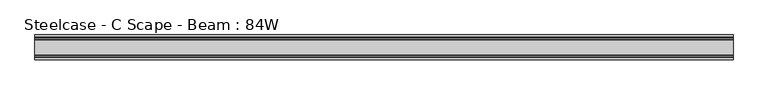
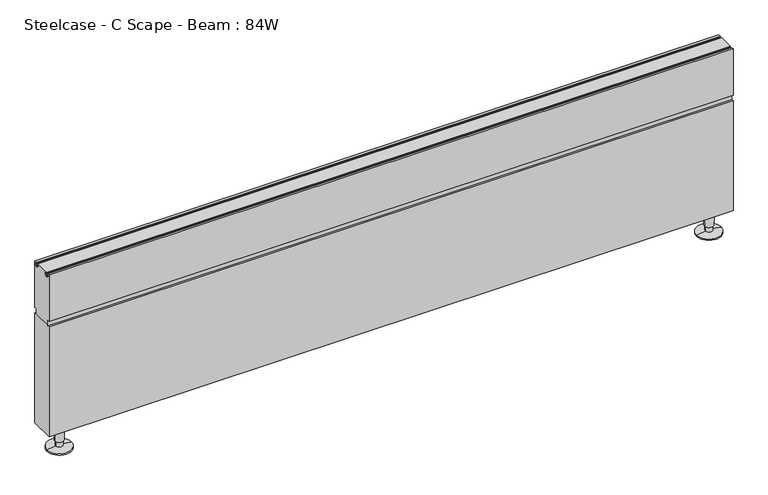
"""IFC4 building model written with IfcOpenShell, lengths in millimetres: furniture geometry, Steelcase - C Scape - Beam : 84W."""

import ifcopenshell
import ifcopenshell.guid

model = None  # the IFC model being written
_history = None  # IfcOwnerHistory: only IFC2X3 demands one
_inside = {}  # id of a spatial element -> (the spatial element, [elements in it])
_under = {}  # id of a project, library or spatial element -> (it, [spatial elements below it])
_declared = {}  # id of a project -> (the project, [libraries it declares])
_typed = {}  # id of a type object -> (the type object, [elements of that type])
_made_of = {}  # id of a material, layer set ... -> (it, [elements and type objects made of it])


def new_model(schema):
    """Start an empty IFC model of exactly this schema.

    Asked for "IFC4X3", IfcOpenShell would pick the latest addendum, in which some entities
    have other attributes; the version numbers below select the first issue.
    IFC2X3 requires an IfcOwnerHistory on every rooted entity: one is made here for all.
    """
    global model, _history
    if schema == "IFC4X3":
        model = ifcopenshell.file(schema_version=(4, 3, 0, 0))
    else:
        model = ifcopenshell.file(schema=schema)
    _inside.clear()
    _under.clear()
    _declared.clear()
    _typed.clear()
    _made_of.clear()
    _history = None
    if model.schema == "IFC2X3":
        org = make("IfcOrganization", Name="unknown")
        user = make(
            "IfcPersonAndOrganization",
            ThePerson=make("IfcPerson", FamilyName="unknown"),
            TheOrganization=org,
        )
        app = make(
            "IfcApplication",
            ApplicationDeveloper=org,
            Version="unknown",
            ApplicationFullName="unknown",
            ApplicationIdentifier="unknown",
        )
        _history = make(
            "IfcOwnerHistory",
            OwningUser=user,
            OwningApplication=app,
            ChangeAction="ADDED",
            CreationDate=0,
        )
    return model


def make(cls, **values):
    """One entity of the class cls with the attributes given. An attribute that is None is left unset."""
    return model.create_entity(
        cls, **{name: value for name, value in values.items() if value is not None}
    )


def rooted(cls, **values):
    """An entity with a GlobalId (a new one), such as an element, a storey or a relation."""
    return make(cls, GlobalId=ifcopenshell.guid.new(), OwnerHistory=_history, **values)


def si_unit(unit_type, name, prefix=None):
    """IfcSIUnit, for example si_unit("LENGTHUNIT", "METRE", prefix="MILLI")."""
    return make("IfcSIUnit", UnitType=unit_type, Prefix=prefix, Name=name)


def assignment(units):
    """IfcUnitAssignment: the units of a project."""
    return None if units is None else make("IfcUnitAssignment", Units=units)


def point(xyz):
    """IfcCartesianPoint."""
    return None if xyz is None else make("IfcCartesianPoint", Coordinates=xyz)


def direction(xyz):
    """IfcDirection."""
    return None if xyz is None else make("IfcDirection", DirectionRatios=xyz)


def frame(location, z_axis=None, x_axis=None):
    """IfcAxis2Placement3D, a coordinate frame: its origin and axes. An axis left out is left unset."""
    return make(
        "IfcAxis2Placement3D",
        Location=point(location),
        Axis=direction(z_axis),
        RefDirection=direction(x_axis),
    )


def origin():
    """The frame at (0, 0, 0) with its axes left unset."""
    return frame((0.0, 0.0, 0.0))


def place(relative_to, where):
    """IfcLocalPlacement: puts the frame where relative to a parent placement (None: the world)."""
    return make(
        "IfcLocalPlacement", PlacementRelTo=relative_to, RelativePlacement=where
    )


def context(
    kind, dimensions, precision=None, world=None, true_north=None, identifier=None
):
    """IfcGeometricRepresentationContext, for example the 3D "Model" context."""
    return make(
        "IfcGeometricRepresentationContext",
        ContextIdentifier=identifier,
        ContextType=kind,
        CoordinateSpaceDimension=dimensions,
        Precision=precision,
        WorldCoordinateSystem=world,
        TrueNorth=true_north,
    )


def project(units=None, contexts=None):
    """IfcProject with its units and contexts."""
    return rooted(
        "IfcProject",
        Name="project",
        RepresentationContexts=contexts,
        UnitsInContext=assignment(units),
    )


def spatial(cls, under=None, at=None, **own):
    """A site, building, storey or space (cls), placed at a placement, below another one or the project."""
    s = rooted(cls, ObjectPlacement=at, **own)
    if under is not None:
        _under.setdefault(under.id(), (under, []))[1].append(s)
    return s


def polyline(points):
    """IfcPolyline through the points."""
    return make("IfcPolyline", Points=[point(p) for p in points])


def circle_curve(where, radius):
    """IfcCircle in the frame where."""
    return make("IfcCircle", Position=where, Radius=radius)


def outline(outer, holes=None, kind="AREA"):
    """IfcArbitraryClosedProfileDef: a profile drawn as a closed curve; with holes, ...WithVoids."""
    if holes is None:
        return make("IfcArbitraryClosedProfileDef", ProfileType=kind, OuterCurve=outer)
    return make(
        "IfcArbitraryProfileDefWithVoids",
        ProfileType=kind,
        OuterCurve=outer,
        InnerCurves=holes,
    )


def extrude(swept, where, along, depth):
    """IfcExtrudedAreaSolid: the profile swept, set in the frame where, extruded along a direction by depth."""
    return make(
        "IfcExtrudedAreaSolid",
        SweptArea=swept,
        Position=where,
        ExtrudedDirection=direction(along),
        Depth=depth,
    )


def shape(context_of_items, identifier, shape_type, items):
    """IfcShapeRepresentation: the items that make up one representation, for example the "Body"."""
    return make(
        "IfcShapeRepresentation",
        ContextOfItems=context_of_items,
        RepresentationIdentifier=identifier,
        RepresentationType=shape_type,
        Items=items,
    )


def source(mapping_origin, context_of_items, identifier, shape_type, items):
    """IfcRepresentationMap: a shape defined once, which mapped items show again and again."""
    return make(
        "IfcRepresentationMap",
        MappingOrigin=mapping_origin,
        MappedRepresentation=shape(context_of_items, identifier, shape_type, items),
    )


def transform(
    local_origin,
    x_axis=None,
    y_axis=None,
    z_axis=None,
    scale=None,
    scale2=None,
    scale3=None,
    uniform=True,
):
    """IfcCartesianTransformationOperator3D, or its non-uniform kind. x_axis, y_axis, z_axis: its Axis1, 2, 3."""
    if uniform:
        return make(
            "IfcCartesianTransformationOperator3D",
            Axis1=direction(x_axis),
            Axis2=direction(y_axis),
            LocalOrigin=point(local_origin),
            Scale=scale,
            Axis3=direction(z_axis),
        )
    return make(
        "IfcCartesianTransformationOperator3DnonUniform",
        Axis1=direction(x_axis),
        Axis2=direction(y_axis),
        LocalOrigin=point(local_origin),
        Scale=scale,
        Axis3=direction(z_axis),
        Scale2=scale2,
        Scale3=scale3,
    )


def mapped(mapping_source, mapping_target):
    """IfcMappedItem: shows the shape of a source again, moved by a transform."""
    return make(
        "IfcMappedItem", MappingSource=mapping_source, MappingTarget=mapping_target
    )


def made_of(thing, what):
    """Note that an element or type object is made of a material, layer set ...; save() writes the relation."""
    if what is not None:
        _made_of.setdefault(what.id(), (what, []))[1].append(thing)
    return thing


def element(
    cls,
    number,
    at=None,
    inside=None,
    cuts=None,
    type_object=None,
    material=None,
    context=None,
    identifier="Body",
    shape_type=None,
    held_by="IfcProductDefinitionShape",
    body=None,
    shapes=None,
    **own,
):
    """One element of the class cls, such as IfcWall. Its Tag is "e" and its number.

    at: its placement. inside: the storey or other place that contains it. cuts: it is an
    opening in that element (IfcRelVoidsElement). A single representation is given by context,
    identifier, shape_type and body (its items); several are given by shapes. held_by: the class
    of the entity that holds the representations. save() writes the other relations.
    """
    e = rooted(cls, Tag="e%d" % number, ObjectPlacement=at, **own)
    if body is not None:
        shapes = [shape(context, identifier, shape_type, body)]
    if shapes is not None:
        e.Representation = make(held_by, Representations=shapes)
    if inside is not None:
        _inside.setdefault(inside.id(), (inside, []))[1].append(e)
    if cuts is not None:
        rooted(
            "IfcRelVoidsElement", RelatingBuildingElement=cuts, RelatedOpeningElement=e
        )
    if type_object is not None:
        _typed.setdefault(type_object.id(), (type_object, []))[1].append(e)
    return made_of(e, material)


def aggregate(whole, parts):
    """IfcRelAggregates: a whole, such as a stair, and the parts it consists of."""
    return rooted("IfcRelAggregates", RelatingObject=whole, RelatedObjects=parts)


def save(model, path):
    """Write the relations noted so far, then the file.

    IfcRelAggregates (storeys below a building ...), IfcRelContainedInSpatialStructure (elements
    in a storey), IfcRelDefinesByType, IfcRelAssociatesMaterial and IfcRelDeclares: one each for
    every whole, place, type object, material and project.
    """
    for whole, parts in _under.values():
        aggregate(whole, parts)
    for where, things in _inside.values():
        rooted(
            "IfcRelContainedInSpatialStructure",
            RelatedElements=things,
            RelatingStructure=where,
        )
    for kind, things in _typed.values():
        rooted("IfcRelDefinesByType", RelatedObjects=things, RelatingType=kind)
    for what, things in _made_of.values():
        rooted("IfcRelAssociatesMaterial", RelatedObjects=things, RelatingMaterial=what)
    for by, libraries in _declared.values():
        rooted("IfcRelDeclares", RelatingContext=by, RelatedDefinitions=libraries)
    model.write(path)


def plane_surface(at):
    """IfcPlane: the flat surface through the origin of the frame at, square to its z axis."""
    return make("IfcPlane", Position=at)


def cylinder_surface(at, radius):
    """IfcCylindricalSurface: all points at the distance radius from the z axis of the frame at."""
    return make("IfcCylindricalSurface", Position=at, Radius=radius)


def revolved_surface(curve, axis_point, axis_direction):
    """IfcSurfaceOfRevolution: the curve turned about the line through axis_point along axis_direction."""
    return make(
        "IfcSurfaceOfRevolution",
        SweptCurve=make("IfcArbitraryOpenProfileDef", ProfileType="CURVE", Curve=curve),
        AxisPosition=make("IfcAxis1Placement", Location=point(axis_point), Axis=direction(axis_direction)),
    )


def advanced_brep(points, edges, surfaces, faces):
    """IfcAdvancedBrep: a solid bounded by faces that lie on surfaces and meet in shared edges.

    An edge is (start, end): straight between two places in points (the first is 0);
    or (start, end, curve); or (start, end, curve, False) where it runs against its curve.
    A face is (place in surfaces, loops), or (place, loops, False) where it looks against
    its surface's normal. A loop lists edges by number (the first is 1), with a minus sign
    where the edge is run from its end to its start. The first loop is the outer one.
    """
    corners = [point(p) for p in points]
    vertices = [make("IfcVertexPoint", VertexGeometry=c) for c in corners]
    made = []
    for start, end, *more in edges:
        made.append(
            make(
                "IfcEdgeCurve",
                EdgeStart=vertices[start],
                EdgeEnd=vertices[end],
                EdgeGeometry=more[0] if more else make("IfcPolyline", Points=[corners[start], corners[end]]),
                SameSense=more[1] if len(more) > 1 else True,
            )
        )
    hull = []
    for where, loops, *sense in faces:
        bounds = []
        for j, loop in enumerate(loops):
            ring = [make("IfcOrientedEdge", EdgeElement=made[abs(k) - 1], Orientation=k > 0) for k in loop]
            bounds.append(
                make(
                    "IfcFaceOuterBound" if j == 0 else "IfcFaceBound",
                    Bound=make("IfcEdgeLoop", EdgeList=ring),
                    Orientation=True,
                )
            )
        hull.append(make("IfcAdvancedFace", Bounds=bounds, FaceSurface=surfaces[where], SameSense=sense[0] if sense else True))
    return make("IfcAdvancedBrep", Outer=make("IfcClosedShell", CfsFaces=hull))


def steelcase_c_scape_beam_84w_b78c2b52(model_context):
    return source(origin(), model_context, "Body", "SolidModel", [
        advanced_brep(
        [(2093.8377849, -38.1, 25.4), (2066.4993351, -38.1, 25.4), (2064.72536, -38.1, 76.2), (2095.61176, -38.1, 76.2), (2091.1056589, -38.1, 25.4), (2069.2314611, -38.1, 25.4), (2091.1056589, -38.1, 8.099626), (2069.2314611, -38.1, 8.099626), (2118.2793277, -38.1, 4.2806159), (2042.0577923, -38.1, 4.2806159), (2118.2793277, -38.1, 0.0), (2042.0577923, -38.1, 0.0), (2080.16856, -38.1, 0.0), (2080.16856, -38.1, 76.2)],
        [
            (0, 1, circle_curve(frame((2080.16856, -38.1, 25.4), z_axis=(0.0, 0.0, 1.0), x_axis=(-1.0, 0.0, 0.0)), 13.6692249)),
            (1, 2),
            (2, 3, circle_curve(frame((2080.16856, -38.1, 76.2), z_axis=(0.0, 0.0, -1.0), x_axis=(-1.0, 0.0, 0.0)), 15.4432)),
            (3, 0),
            (1, 0, circle_curve(frame((2080.16856, -38.1, 25.4), z_axis=(0.0, 0.0, 1.0), x_axis=(-1.0, 0.0, 0.0)), 13.6692249)),
            (3, 2, circle_curve(frame((2080.16856, -38.1, 76.2), z_axis=(0.0, 0.0, -1.0), x_axis=(-1.0, 0.0, 0.0)), 15.4432)),
            (4, 5, circle_curve(frame((2080.16856, -38.1, 25.4), z_axis=(0.0, 0.0, 1.0), x_axis=(-1.0, 0.0, 0.0)), 10.9370989)),
            (5, 1),
            (0, 4),
            (5, 4, circle_curve(frame((2080.16856, -38.1, 25.4), z_axis=(0.0, 0.0, 1.0), x_axis=(-1.0, 0.0, 0.0)), 10.9370989)),
            (6, 7, circle_curve(frame((2080.16856, -38.1, 8.099626), z_axis=(0.0, 0.0, 1.0), x_axis=(-1.0, 0.0, 0.0)), 10.9370989)),
            (7, 5),
            (4, 6),
            (7, 6, circle_curve(frame((2080.16856, -38.1, 8.099626), z_axis=(0.0, 0.0, 1.0), x_axis=(-1.0, 0.0, 0.0)), 10.9370989)),
            (8, 9, circle_curve(frame((2080.16856, -38.1, 4.2806159), z_axis=(0.0, 0.0, 1.0), x_axis=(-1.0, 0.0, 0.0)), 38.1107677)),
            (9, 7),
            (6, 8),
            (9, 8, circle_curve(frame((2080.16856, -38.1, 4.2806159), z_axis=(0.0, 0.0, 1.0), x_axis=(-1.0, 0.0, 0.0)), 38.1107677)),
            (10, 11, circle_curve(frame((2080.16856, -38.1, 0.0), z_axis=(0.0, 0.0, 1.0), x_axis=(-1.0, 0.0, 0.0)), 38.1107677)),
            (11, 9),
            (8, 10),
            (11, 10, circle_curve(frame((2080.16856, -38.1, 0.0), z_axis=(0.0, 0.0, 1.0), x_axis=(-1.0, 0.0, 0.0)), 38.1107677)),
            (12, 11),
            (10, 12),
            (2, 13),
            (13, 3),
        ],
        [
            revolved_surface(polyline([(2064.72536, -38.1, 76.2), (2066.4993351, -38.1, 25.4)]), (2080.16856, -38.1, 76.2), (0.0, 0.0, -1.0)),
            plane_surface(frame((2080.16856, -38.1, 25.4), z_axis=(0.0, 0.0, -1.0), x_axis=(-1.0, 0.0, 0.0))),
            cylinder_surface(frame((2080.16856, -38.1, 76.2), z_axis=(0.0, 0.0, -1.0), x_axis=(-1.0, 0.0, 0.0)), 10.9370989),
            revolved_surface(polyline([(2069.2314611, -38.1, 8.099626), (2042.0577923, -38.1, 4.2806159)]), (2080.16856, -38.1, 76.2), (0.0, 0.0, -1.0)),
            cylinder_surface(frame((2080.16856, -38.1, 76.2), z_axis=(0.0, 0.0, -1.0), x_axis=(-1.0, 0.0, 0.0)), 38.1107677),
            plane_surface(frame((2080.16856, -38.1, 0.0), z_axis=(0.0, 0.0, -1.0), x_axis=(-1.0, 0.0, 0.0))),
            plane_surface(frame((2080.16856, -38.1, 76.2), z_axis=(0.0, 0.0, 1.0), x_axis=(-1.0, 0.0, 0.0))),
        ],
        [
            (0, [[1, 2, 3, 4]]),
            (0, [[5, -4, 6, -2]]),
            (1, [[7, 8, -1, 9]]),
            (1, [[10, -9, -5, -8]]),
            (2, [[11, 12, -7, 13]]),
            (2, [[14, -13, -10, -12]]),
            (3, [[15, 16, -11, 17]]),
            (3, [[18, -17, -14, -16]]),
            (4, [[19, 20, -15, 21]]),
            (4, [[22, -21, -18, -20]]),
            (5, [[23, -19, 24]]),
            (5, [[-24, -22, -23]]),
            (6, [[-3, 25, 26]]),
            (6, [[-6, -26, -25]]),
        ],
    ),
        advanced_brep(
        [(67.1006649, -38.1, 25.4), (39.7622151, -38.1, 25.4), (37.98824, -38.1, 76.2), (68.87464, -38.1, 76.2), (64.3685389, -38.1, 25.4), (42.4943411, -38.1, 25.4), (64.3685389, -38.1, 8.099626), (42.4943411, -38.1, 8.099626), (91.5422077, -38.1, 4.2806159), (15.3206723, -38.1, 4.2806159), (91.5422077, -38.1, 0.0), (15.3206723, -38.1, 0.0), (53.43144, -38.1, 0.0), (53.43144, -38.1, 76.2)],
        [
            (0, 1, circle_curve(frame((53.43144, -38.1, 25.4), z_axis=(0.0, 0.0, 1.0), x_axis=(-1.0, 0.0, 0.0)), 13.6692249)),
            (1, 2),
            (2, 3, circle_curve(frame((53.43144, -38.1, 76.2), z_axis=(0.0, 0.0, -1.0), x_axis=(-1.0, 0.0, 0.0)), 15.4432)),
            (3, 0),
            (1, 0, circle_curve(frame((53.43144, -38.1, 25.4), z_axis=(0.0, 0.0, 1.0), x_axis=(-1.0, 0.0, 0.0)), 13.6692249)),
            (3, 2, circle_curve(frame((53.43144, -38.1, 76.2), z_axis=(0.0, 0.0, -1.0), x_axis=(-1.0, 0.0, 0.0)), 15.4432)),
            (4, 5, circle_curve(frame((53.43144, -38.1, 25.4), z_axis=(0.0, 0.0, 1.0), x_axis=(-1.0, 0.0, 0.0)), 10.9370989)),
            (5, 1),
            (0, 4),
            (5, 4, circle_curve(frame((53.43144, -38.1, 25.4), z_axis=(0.0, 0.0, 1.0), x_axis=(-1.0, 0.0, 0.0)), 10.9370989)),
            (6, 7, circle_curve(frame((53.43144, -38.1, 8.099626), z_axis=(0.0, 0.0, 1.0), x_axis=(-1.0, 0.0, 0.0)), 10.9370989)),
            (7, 5),
            (4, 6),
            (7, 6, circle_curve(frame((53.43144, -38.1, 8.099626), z_axis=(0.0, 0.0, 1.0), x_axis=(-1.0, 0.0, 0.0)), 10.9370989)),
            (8, 9, circle_curve(frame((53.43144, -38.1, 4.2806159), z_axis=(0.0, 0.0, 1.0), x_axis=(-1.0, 0.0, 0.0)), 38.1107677)),
            (9, 7),
            (6, 8),
            (9, 8, circle_curve(frame((53.43144, -38.1, 4.2806159), z_axis=(0.0, 0.0, 1.0), x_axis=(-1.0, 0.0, 0.0)), 38.1107677)),
            (10, 11, circle_curve(frame((53.43144, -38.1, 0.0), z_axis=(0.0, 0.0, 1.0), x_axis=(-1.0, 0.0, 0.0)), 38.1107677)),
            (11, 9),
            (8, 10),
            (11, 10, circle_curve(frame((53.43144, -38.1, 0.0), z_axis=(0.0, 0.0, 1.0), x_axis=(-1.0, 0.0, 0.0)), 38.1107677)),
            (12, 11),
            (10, 12),
            (2, 13),
            (13, 3),
        ],
        [
            revolved_surface(polyline([(37.98824, -38.1, 76.2), (39.7622151, -38.1, 25.4)]), (53.43144, -38.1, 76.2), (0.0, 0.0, -1.0)),
            plane_surface(frame((53.43144, -38.1, 25.4), z_axis=(0.0, 0.0, -1.0), x_axis=(-1.0, 0.0, 0.0))),
            cylinder_surface(frame((53.43144, -38.1, 76.2), z_axis=(0.0, 0.0, -1.0), x_axis=(-1.0, 0.0, 0.0)), 10.9370989),
            revolved_surface(polyline([(42.4943411, -38.1, 8.099626), (15.3206723, -38.1, 4.2806159)]), (53.43144, -38.1, 76.2), (0.0, 0.0, -1.0)),
            cylinder_surface(frame((53.43144, -38.1, 76.2), z_axis=(0.0, 0.0, -1.0), x_axis=(-1.0, 0.0, 0.0)), 38.1107677),
            plane_surface(frame((53.43144, -38.1, 0.0), z_axis=(0.0, 0.0, -1.0), x_axis=(-1.0, 0.0, 0.0))),
            plane_surface(frame((53.43144, -38.1, 76.2), z_axis=(0.0, 0.0, 1.0), x_axis=(-1.0, 0.0, 0.0))),
        ],
        [
            (0, [[1, 2, 3, 4]]),
            (0, [[5, -4, 6, -2]]),
            (1, [[7, 8, -1, 9]]),
            (1, [[10, -9, -5, -8]]),
            (2, [[11, 12, -7, 13]]),
            (2, [[14, -13, -10, -12]]),
            (3, [[15, 16, -11, 17]]),
            (3, [[18, -17, -14, -16]]),
            (4, [[19, 20, -15, 21]]),
            (4, [[22, -21, -18, -20]]),
            (5, [[23, -19, 24]]),
            (5, [[-24, -22, -23]]),
            (6, [[-3, 25, 26]]),
            (6, [[-6, -26, -25]]),
        ],
    ),
        extrude(outline(polyline([(2133.6, 0.0), (2133.6, -76.2), (0.0, -76.2), (0.0, 0.0), (2133.6, 0.0)])), frame((0.0, 0.0, 76.2), z_axis=(0.0, 0.0, 1.0), x_axis=(1.0, 0.0, 0.0)), (0.0, 0.0, 1.0), 361.95),
        extrude(outline(polyline([(-60.3249516, 609.6), (-15.8749758, 609.6), (-15.8749758, 605.7899855), (-19.6849903, 605.7899855), (-19.6849903, 601.9800073), (-15.3670126, 599.4869908), (-14.2747828, 599.4869908), (-14.2747828, 597.1539937), (-7.924807, 597.1539937), (-7.924807, 599.4435342), (-6.8325771, 599.4435342), (-2.5399612, 601.9800073), (-2.5399612, 605.7899855), (-6.3499758, 605.7899855), (-6.3499758, 609.6), (0.0, 609.6), (0.0, 457.2), (-6.3499758, 457.2), (-6.3499758, 438.15), (-69.8499516, 438.15), (-69.8499516, 457.2), (-76.2, 457.2), (-76.2, 609.6), (-69.8499516, 609.6), (-69.8499516, 605.7899855), (-73.6599661, 605.7899855), (-73.6599661, 601.9800073), (-69.3419884, 599.4869908), (-68.2497585, 599.4869908), (-68.2497585, 597.1539937), (-61.8997828, 597.1539937), (-61.8997828, 599.4435342), (-60.8075529, 599.4435342), (-56.514937, 601.9800073), (-56.514937, 605.7899855), (-60.3249516, 605.7899855), (-60.3249516, 609.6)])), frame((0.0, 0.0, 0.0), z_axis=(1.0, 0.0, 0.0), x_axis=(0.0, 1.0, 0.0)), (0.0, 0.0, 1.0), 2133.6),
    ])


if __name__ == "__main__":
    model = new_model("IFC4")
    model_context = context("Model", 3, world=origin())
    ifc_project = project(units=[si_unit("LENGTHUNIT", "METRE", prefix="MILLI")], contexts=[model_context])
    site = spatial("IfcSite", under=ifc_project)
    building = spatial("IfcBuilding", under=site)
    placement = place(None, origin())
    steelcase_c_scape_beam_84w_shape = steelcase_c_scape_beam_84w_b78c2b52(model_context)
    element("IfcFurniture", 1, ObjectType="Steelcase - C Scape - Beam : 84W", at=placement, inside=building, context=model_context, shape_type="MappedRepresentation", body=[
        mapped(steelcase_c_scape_beam_84w_shape, transform((0.0, 0.0, 0.0), x_axis=(1.0, 0.0, 0.0), y_axis=(0.0, 1.0, 0.0), z_axis=(0.0, 0.0, 1.0))),
    ])
    save(model, "model.ifc")
